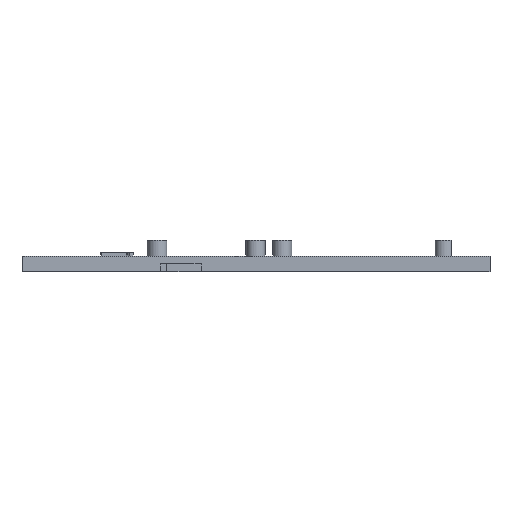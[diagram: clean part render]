
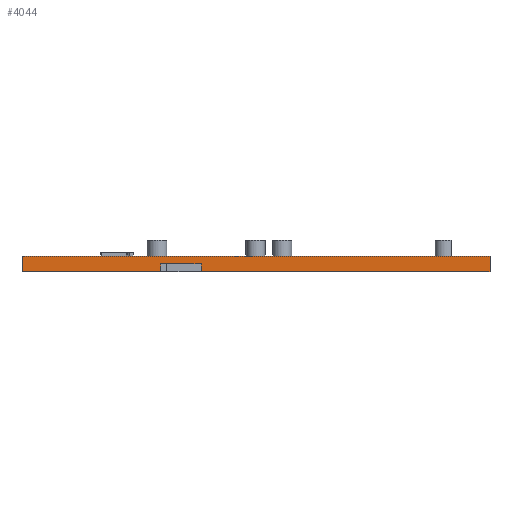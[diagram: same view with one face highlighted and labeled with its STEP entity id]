
A CAD part, left-side view. The second image highlights one B-rep face of the part: STEP entity #4044.
In plain terms, the highlighted planar face has unit normal (-1, 0, 0).
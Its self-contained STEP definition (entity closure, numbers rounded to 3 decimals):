
#319=FACE_OUTER_BOUND('',#548,.T.);
#548=EDGE_LOOP('',(#2730,#2731,#2732,#2733,#2734,#2735,#2736,#2737));
#800=LINE('',#5293,#1229);
#804=LINE('',#5301,#1233);
#833=LINE('',#5365,#1262);
#846=LINE('',#5391,#1275);
#847=LINE('',#5392,#1276);
#848=LINE('',#5394,#1277);
#849=LINE('',#5396,#1278);
#850=LINE('',#5397,#1279);
#1229=VECTOR('',#4480,10.);
#1233=VECTOR('',#4486,10.);
#1262=VECTOR('',#4521,10.);
#1275=VECTOR('',#4536,10.);
#1276=VECTOR('',#4537,10.);
#1277=VECTOR('',#4538,10.);
#1278=VECTOR('',#4539,10.);
#1279=VECTOR('',#4540,10.);
#1658=VERTEX_POINT('',#5291);
#1659=VERTEX_POINT('',#5292);
#1662=VERTEX_POINT('',#5300);
#1693=VERTEX_POINT('',#5362);
#1694=VERTEX_POINT('',#5364);
#1706=VERTEX_POINT('',#5390);
#1707=VERTEX_POINT('',#5393);
#1708=VERTEX_POINT('',#5395);
#2067=EDGE_CURVE('',#1658,#1659,#800,.T.);
#2071=EDGE_CURVE('',#1658,#1662,#804,.T.);
#2103=EDGE_CURVE('',#1693,#1694,#833,.T.);
#2116=EDGE_CURVE('',#1659,#1706,#846,.T.);
#2117=EDGE_CURVE('',#1706,#1694,#847,.T.);
#2118=EDGE_CURVE('',#1707,#1693,#848,.T.);
#2119=EDGE_CURVE('',#1708,#1707,#849,.T.);
#2120=EDGE_CURVE('',#1662,#1708,#850,.T.);
#2730=ORIENTED_EDGE('',*,*,#2067,.T.);
#2731=ORIENTED_EDGE('',*,*,#2116,.T.);
#2732=ORIENTED_EDGE('',*,*,#2117,.T.);
#2733=ORIENTED_EDGE('',*,*,#2103,.F.);
#2734=ORIENTED_EDGE('',*,*,#2118,.F.);
#2735=ORIENTED_EDGE('',*,*,#2119,.F.);
#2736=ORIENTED_EDGE('',*,*,#2120,.F.);
#2737=ORIENTED_EDGE('',*,*,#2071,.F.);
#3908=PLANE('',#4290);
#4044=ADVANCED_FACE('',(#319),#3908,.T.);
#4290=AXIS2_PLACEMENT_3D('',#5389,#4534,#4535);
#4480=DIRECTION('',(0.,0.,1.));
#4486=DIRECTION('',(0.,1.,0.));
#4521=DIRECTION('',(0.,1.,0.));
#4534=DIRECTION('center_axis',(-1.,0.,0.));
#4535=DIRECTION('ref_axis',(0.,-1.,0.));
#4536=DIRECTION('',(0.,-1.,0.));
#4537=DIRECTION('',(0.,0.,-1.));
#4538=DIRECTION('',(0.,0.,-1.));
#4539=DIRECTION('',(0.,-1.,0.));
#4540=DIRECTION('',(0.,0.,1.));
#5291=CARTESIAN_POINT('',(-0.006,-45.,-0.132));
#5292=CARTESIAN_POINT('',(-0.006,-45.,2.368));
#5293=CARTESIAN_POINT('',(-0.006,-45.,1.368));
#5300=CARTESIAN_POINT('',(-0.006,-0.569,-0.132));
#5301=CARTESIAN_POINT('',(-0.006,-150.569,-0.132));
#5362=CARTESIAN_POINT('',(-0.006,-150.569,-0.132));
#5364=CARTESIAN_POINT('',(-0.006,-57.963,-0.132));
#5365=CARTESIAN_POINT('',(-0.006,-150.569,-0.132));
#5389=CARTESIAN_POINT('Origin',(-0.006,-0.569,
2.868));
#5390=CARTESIAN_POINT('',(-0.006,-57.963,2.368));
#5391=CARTESIAN_POINT('',(-0.006,-23.284,2.368));
#5392=CARTESIAN_POINT('',(-0.006,-57.963,1.368));
#5393=CARTESIAN_POINT('',(-0.006,-150.569,4.868));
#5394=CARTESIAN_POINT('',(-0.006,-150.569,2.868));
#5395=CARTESIAN_POINT('',(-0.006,-0.569,4.868));
#5396=CARTESIAN_POINT('',(-0.006,-150.569,4.868));
#5397=CARTESIAN_POINT('',(-0.006,-0.569,2.868));
